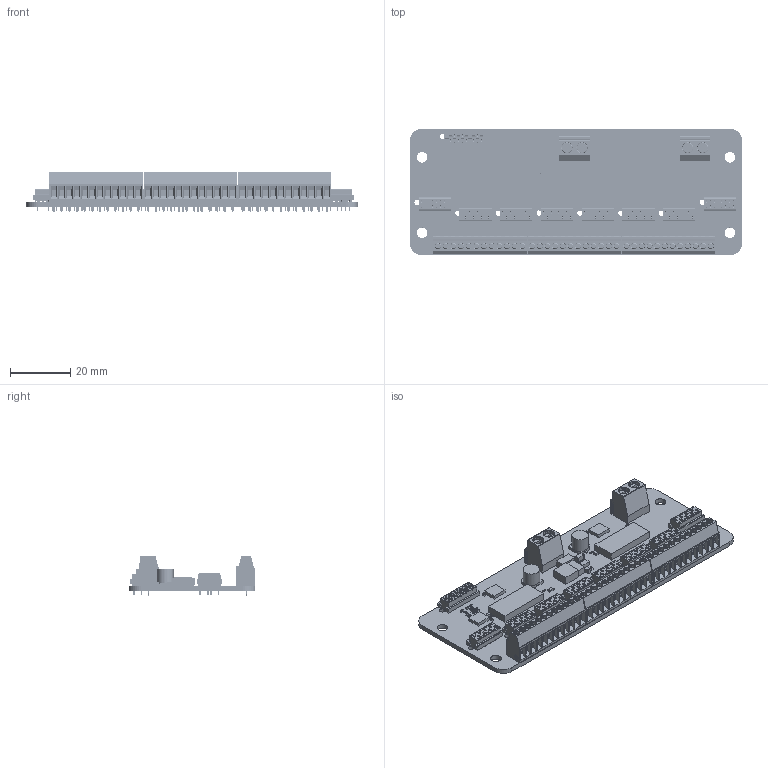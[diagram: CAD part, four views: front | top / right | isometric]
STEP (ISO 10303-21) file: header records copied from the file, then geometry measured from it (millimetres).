
FILE_DESCRIPTION(('Open CASCADE Model'),'2;1');
FILE_NAME('Open CASCADE Shape Model','2019-04-23T15:54:22',('Author'),( 'Open CASCADE'),'Open CASCADE STEP processor 6.8','Open CASCADE 6.8' ,'Unknown');
FILE_SCHEMA(('AUTOMOTIVE_DESIGN { 1 0 10303 214 1 1 1 1 }'));
Length unit declared in the file: millimetre
Products named in the file (120): PCB; Board; Open CASCADE STEP translator 6.8 1.1.1; Motor8; c-215079-8-t-3d_RGB255; Motor7; Motor6; Motor5; Motor4; Motor3; Motor2; Motor1; +_BACKL_-; msb02001; PoExtensionIn; c-0215079-10-v-3d; R18; 6594451296; Extruded; 6594450816; C18; 6594450256; 6594449696; R140; R79; R46; R43; R8; R7; R6; 6594445936; R5; R4; R3; R2; R1; POWER; 6594061760; 6594061360; L7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
Assembly tree (213 placements, depth 4):
  PCB
    Board
      Open CASCADE STEP translator 6.8 1.1.1
    Motor8
      c-215079-8-t-3d_RGB255
    Motor7
      c-215079-8-t-3d_RGB255
    Motor6
      c-215079-8-t-3d_RGB255
    Motor5
      c-215079-8-t-3d_RGB255
    Motor4
      c-215079-8-t-3d_RGB255
    Motor3
      c-215079-8-t-3d_RGB255
    Motor2
      c-215079-8-t-3d_RGB255
    Motor1
      c-215079-8-t-3d_RGB255
    +_BACKL_-
      msb02001
    PoExtensionIn
      c-0215079-10-v-3d
    R18
      6594451296
        Extruded
      6594450816  x2
        Extruded
    C18
      6594450256  x2
        Extruded
      6594449696
        Extruded
    R140
      6594451296
        Extruded
      6594450816  x2
        Extruded
    R79
      6594451296
        Extruded
      6594450816  x2
        Extruded
    R46
      6594451296
        Extruded
      6594450816  x2
        Extruded
    R43
      6594451296
        Extruded
      6594450816  x2
        Extruded
    R8
      6594451296
        Extruded
      6594450816  x2
        Extruded
    R7
      6594451296
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Bounding box: 110 x 42 x 13.5 mm (x, y, z)
Volume: 15812.4 mm3; surface area: 22127.3 mm2
Topology: 127 solids, 163 shells, 10303 faces, 27732 edges, 18336 vertices
Faces by surface type: plane 8421, cylinder 1714, cone 152, torus 16
Full cylindrical faces by diameter (mm): 0.85 x74, 1.1 x40, 1.8 x9, 3.5 x4, 5.5 x2
Entity records: 98633 total; most frequent: CARTESIAN_POINT 17664, ORIENTED_EDGE 15020, DIRECTION 14354, EDGE_CURVE 7510, LINE 6220, VECTOR 6220, VERTEX_POINT 4956, AXIS2_PLACEMENT_3D 4067
